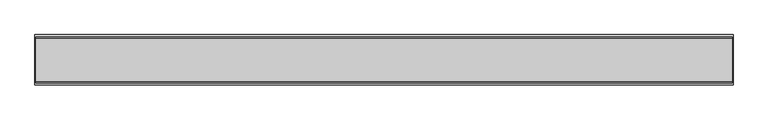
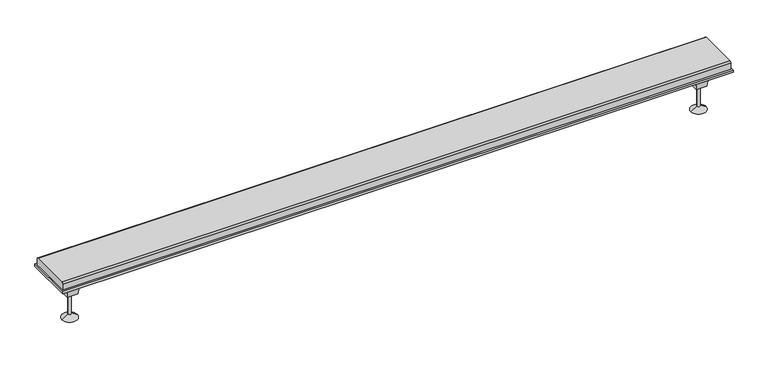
"""IFC4 building model written with IfcOpenShell, lengths in millimetres: sanitary terminal geometry, NLRS_PF_52_UN_Multi Long Length in_uitloop_Easydrain : Multi Long Length zijuitloop hoog 50mm, zij-ingang 40mm."""

from ifc_helpers import new_model, si_unit, point, frame, frame_2d, origin, place, context, project, spatial, polyline, circle_curve, trimmed, segment, composite_curve, outline, extrude, faceted_brep, source, transform, mapped, element, save
from ifc_brep_helpers import plane_surface, cylinder_surface, revolved_surface, advanced_brep


def sanitary_terminal_f435edd6(model_context):
    return source(origin(), model_context, "Body", "SolidModel", [
        advanced_brep(
        [(1013.0, 0.0, -60.0), (1007.0, 0.0, -60.0), (1010.0, 0.0, -60.0), (1013.0, 0.0, -102.5), (1007.0, 0.0, -102.5), (1025.0, 0.0, -110.0), (995.0, 0.0, -110.0), (1010.0, 0.0, -110.0)],
        [
            (0, 1, circle_curve(frame((1010.0, 0.0, -60.0), z_axis=(0.0, 0.0, 1.0), x_axis=(-1.0, 0.0, 0.0)), 3.0)),
            (1, 2),
            (2, 0),
            (1, 0, circle_curve(frame((1010.0, 0.0, -60.0), z_axis=(0.0, 0.0, 1.0), x_axis=(-1.0, 0.0, 0.0)), 3.0)),
            (3, 4, circle_curve(frame((1010.0, 0.0, -102.5), z_axis=(0.0, 0.0, 1.0), x_axis=(-1.0, 0.0, 0.0)), 3.0)),
            (4, 1),
            (0, 3),
            (4, 3, circle_curve(frame((1010.0, 0.0, -102.5), z_axis=(0.0, 0.0, 1.0), x_axis=(-1.0, 0.0, 0.0)), 3.0)),
            (5, 6, circle_curve(frame((1010.0, 0.0, -110.0), z_axis=(0.0, 0.0, 1.0), x_axis=(-1.0, 0.0, 0.0)), 15.0)),
            (6, 4),
            (3, 5),
            (6, 5, circle_curve(frame((1010.0, 0.0, -110.0), z_axis=(0.0, 0.0, 1.0), x_axis=(-1.0, 0.0, 0.0)), 15.0)),
            (7, 6),
            (5, 7),
        ],
        [
            plane_surface(frame((1010.0, 0.0, -60.0), z_axis=(0.0, 0.0, 1.0), x_axis=(-1.0, 0.0, 0.0))),
            cylinder_surface(frame((1010.0, 0.0, -118.1782032), z_axis=(0.0, 0.0, -1.0), x_axis=(-1.0, 0.0, 0.0)), 3.0),
            revolved_surface(polyline([(1007.0, 0.0, -102.5), (995.0, 0.0, -110.0)]), (1010.0, 0.0, -118.1782032), (0.0, 0.0, -1.0)),
            plane_surface(frame((1010.0, 0.0, -110.0), z_axis=(0.0, 0.0, -1.0), x_axis=(-1.0, 0.0, 0.0))),
        ],
        [
            (0, [[1, 2, 3]]),
            (0, [[4, -3, -2]]),
            (1, [[5, 6, -1, 7]]),
            (1, [[8, -7, -4, -6]]),
            (2, [[9, 10, -5, 11]]),
            (2, [[12, -11, -8, -10]]),
            (3, [[13, -9, 14]]),
            (3, [[-14, -12, -13]]),
        ],
    ),
        faceted_brep([(1000.0, 10.0, -60.0), (1020.0, 10.0, -60.0), (1020.0, -10.0, -60.0), (1000.0, -10.0, -60.0), (995.0, 15.0, -20.0), (995.0, -15.0, -20.0), (1025.0, -15.0, -20.0), (1025.0, 15.0, -20.0)], [[[0, 1, 2, 3]], [[4, 5, 6, 7]], [[5, 4, 0, 3]], [[6, 5, 3, 2]], [[7, 6, 2, 1]], [[4, 7, 1, 0]]]),
        advanced_brep(
        [(-207.0, 0.0, -60.0), (-213.0, 0.0, -60.0), (-210.0, 0.0, -60.0), (-207.0, 0.0, -102.5), (-213.0, 0.0, -102.5), (-195.0, 0.0, -110.0), (-225.0, 0.0, -110.0), (-210.0, 0.0, -110.0)],
        [
            (0, 1, circle_curve(frame((-210.0, 0.0, -60.0), z_axis=(0.0, 0.0, 1.0), x_axis=(-1.0, 0.0, 0.0)), 3.0)),
            (1, 2),
            (2, 0),
            (1, 0, circle_curve(frame((-210.0, 0.0, -60.0), z_axis=(0.0, 0.0, 1.0), x_axis=(-1.0, 0.0, 0.0)), 3.0)),
            (3, 4, circle_curve(frame((-210.0, 0.0, -102.5), z_axis=(0.0, 0.0, 1.0), x_axis=(-1.0, 0.0, 0.0)), 3.0)),
            (4, 1),
            (0, 3),
            (4, 3, circle_curve(frame((-210.0, 0.0, -102.5), z_axis=(0.0, 0.0, 1.0), x_axis=(-1.0, 0.0, 0.0)), 3.0)),
            (5, 6, circle_curve(frame((-210.0, 0.0, -110.0), z_axis=(0.0, 0.0, 1.0), x_axis=(-1.0, 0.0, 0.0)), 15.0)),
            (6, 4),
            (3, 5),
            (6, 5, circle_curve(frame((-210.0, 0.0, -110.0), z_axis=(0.0, 0.0, 1.0), x_axis=(-1.0, 0.0, 0.0)), 15.0)),
            (7, 6),
            (5, 7),
        ],
        [
            plane_surface(frame((-210.0, 0.0, -60.0), z_axis=(0.0, 0.0, 1.0), x_axis=(-1.0, 0.0, 0.0))),
            cylinder_surface(frame((-210.0, 0.0, -118.1782032), z_axis=(0.0, 0.0, -1.0), x_axis=(-1.0, 0.0, 0.0)), 3.0),
            revolved_surface(polyline([(-213.0, 0.0, -102.5), (-225.0, 0.0, -110.0)]), (-210.0, 0.0, -118.1782032), (0.0, 0.0, -1.0)),
            plane_surface(frame((-210.0, 0.0, -110.0), z_axis=(0.0, 0.0, -1.0), x_axis=(-1.0, 0.0, 0.0))),
        ],
        [
            (0, [[1, 2, 3]]),
            (0, [[4, -3, -2]]),
            (1, [[5, 6, -1, 7]]),
            (1, [[8, -7, -4, -6]]),
            (2, [[9, 10, -5, 11]]),
            (2, [[12, -11, -8, -10]]),
            (3, [[13, -9, 14]]),
            (3, [[-14, -12, -13]]),
        ],
    ),
        faceted_brep([(-220.0, 10.0, -60.0), (-200.0, 10.0, -60.0), (-200.0, -10.0, -60.0), (-220.0, -10.0, -60.0), (-225.0, 15.0, -20.0), (-225.0, -15.0, -20.0), (-195.0, -15.0, -20.0), (-195.0, 15.0, -20.0)], [[[0, 1, 2, 3]], [[4, 5, 6, 7]], [[5, 4, 0, 3]], [[6, 5, 3, 2]], [[7, 6, 2, 1]], [[4, 7, 1, 0]]]),
        extrude(outline(composite_curve([segment(polyline([(-40.0, 0.0), (40.0, 0.0)]), True, "CONTINUOUS"), segment(trimmed(circle_curve(frame_2d((40.0, -3.0)), 3.0), [point((40.0, 0.0))], [point((43.0, -3.0))], False, "CARTESIAN"), True, "CONTINUOUS"), segment(polyline([(43.0, -3.0), (43.0, -15.0), (-43.0, -15.0), (-43.0, -3.0)]), True, "CONTINUOUS"), segment(trimmed(circle_curve(frame_2d((-40.0, -3.0)), 3.0), [point((-43.0, -3.0))], [point((-40.0, 0.0))], False, "CARTESIAN"), True, "CONTINUOUS")], self_intersect=False)), frame((-248.0, 0.0, 0.0), z_axis=(1.0, 0.0, 0.0), x_axis=(0.0, 1.0, 0.0)), (0.0, 0.0, 1.0), 1296.0),
        extrude(outline(polyline([(1050.0, -47.0), (-250.0, -47.0), (-250.0, 47.0), (1050.0, 47.0), (1050.0, -47.0)])), frame((0.0, 0.0, -20.0), z_axis=(0.0, 0.0, 1.0), x_axis=(1.0, 0.0, 0.0)), (0.0, 0.0, 1.0), 5.0),
    ])


if __name__ == "__main__":
    model = new_model("IFC4")
    model_context = context("Model", 3, world=origin())
    ifc_project = project(units=[si_unit("LENGTHUNIT", "METRE", prefix="MILLI")], contexts=[model_context])
    site = spatial("IfcSite", under=ifc_project)
    building = spatial("IfcBuilding", under=site)
    placement = place(None, origin())
    sanitary_terminal_shape = sanitary_terminal_f435edd6(model_context)
    element("IfcSanitaryTerminal", 1, ObjectType="NLRS_PF_52_UN_Multi Long Length in_uitloop_Easydrain : Multi Long Length zijuitloop hoog 50mm, zij-ingang 40mm", at=placement, inside=building, context=model_context, shape_type="MappedRepresentation", body=[
        mapped(sanitary_terminal_shape, transform((0.0, 0.0, 0.0), x_axis=(1.0, 0.0, 0.0), y_axis=(0.0, 1.0, 0.0), z_axis=(0.0, 0.0, 1.0))),
    ])
    save(model, "model.ifc")
